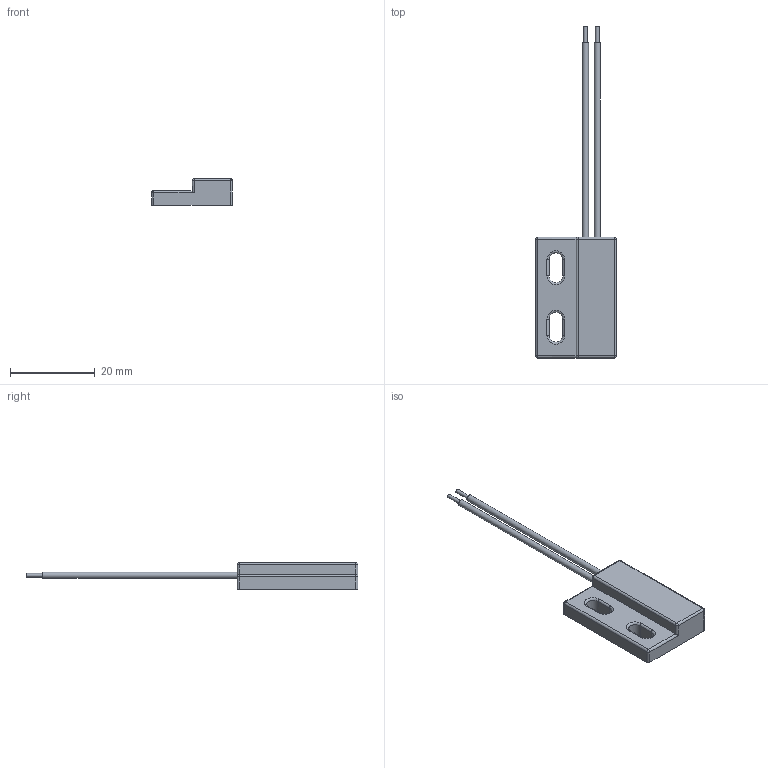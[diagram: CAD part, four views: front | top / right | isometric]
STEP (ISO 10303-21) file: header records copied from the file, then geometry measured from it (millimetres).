
FILE_DESCRIPTION(/* description */ ('Katalogmodell Elobau'),/* implementation_level */ '2;1');
FILE_NAME(/* name */ '151SG..._A.stp',/* time_stamp */ '2014-04-25T08:20:08+02:00',/* author */ ('Elobau GmbH & Co. KG'),/* organization */ ('Elobau GmbH & Co. KG'),/* preprocessor_version */ 'ST-DEVELOPER v15',/* originating_system */ 'SIEMENS PLM Software NX 8.5',/* authorisation */ '');
FILE_SCHEMA (('AUTOMOTIVE_DESIGN { 1 0 10303 214 3 1 1 1 }'));
Length unit declared in the file: millimetre
Products named in the file (1): 151SG..._A
Bounding box: 19 x 78.25 x 6.35 mm (x, y, z)
Volume: 2419.4 mm3; surface area: 2371.7 mm2
Topology: 1 solids, 1 shells, 66 faces, 149 edges, 86 vertices
Faces by surface type: cylinder 29, plane 27, bspline 10
Full cylindrical faces by diameter (mm): 0.85 x2, 1.5 x2
Entity records: 2363 total; most frequent: CARTESIAN_POINT 442, DIRECTION 309, ORIENTED_EDGE 278, EDGE_CURVE 139, AXIS2_PLACEMENT_3D 115, VERTEX_POINT 86, EDGE_LOOP 81, LINE 79
